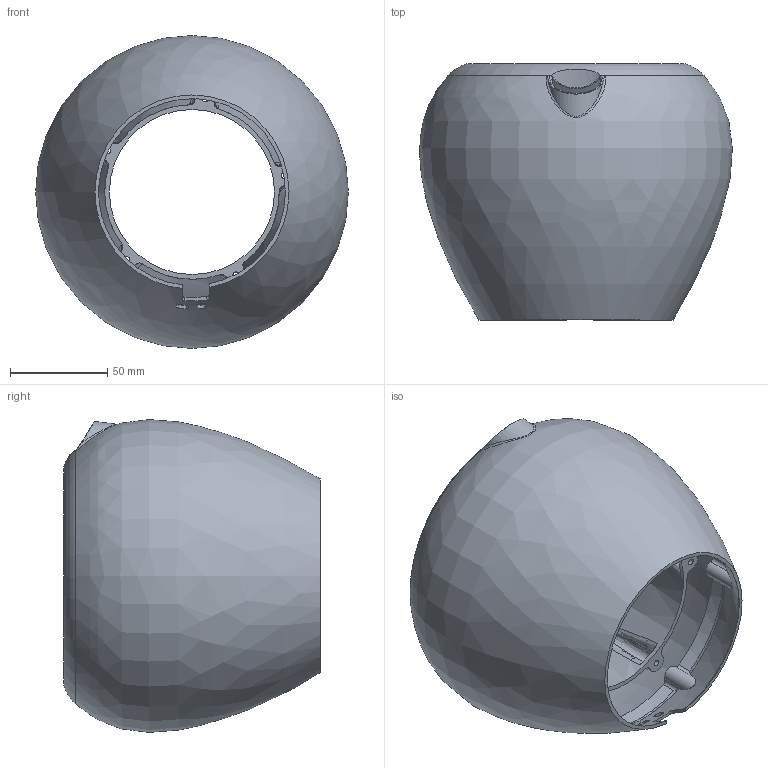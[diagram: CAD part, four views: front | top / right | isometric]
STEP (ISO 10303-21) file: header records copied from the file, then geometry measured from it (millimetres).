
FILE_DESCRIPTION(/* description */ (''),/* implementation_level */ '2;1');
FILE_NAME(/* name */ 'C:\Users\uhlma\OneDrive\Flaura\Produktentwicklung\Gehaeuse\CAD-Konstruktion\Prototyp 9\Thingiverse_Upload\Inventor\Housing_Inner_Outer.stp',/* time_stamp */ '2021-07-25T11:44:01+02:00',/* author */ ('uhlma'),/* organization */ (''),/* preprocessor_version */ 'ST-DEVELOPER v18',/* originating_system */ 'Autodesk Inventor 2020',/* authorisation */ '');
FILE_SCHEMA (('AUTOMOTIVE_DESIGN { 1 0 10303 214 3 1 1 }'));
Length unit declared in the file: millimetre
Products named in the file (1): Topf_gesamt_210715
Bounding box: 161.11 x 132 x 161.13 mm (x, y, z)
Volume: 180318.2 mm3; surface area: 194518.2 mm2
Topology: 27 solids, 27 shells, 548 faces, 1351 edges, 850 vertices
Faces by surface type: plane 217, bspline 162, cylinder 129, torus 21, sphere 12, cone 7
Full cylindrical faces by diameter (mm): 2.7 x6, 3.3 x5, 5 x1, 112.765 x1
Entity records: 23607 total; most frequent: CARTESIAN_POINT 11598, ORIENTED_EDGE 2672, DIRECTION 2129, EDGE_CURVE 1336, VERTEX_POINT 850, AXIS2_PLACEMENT_3D 788, EDGE_LOOP 576, LINE 553
